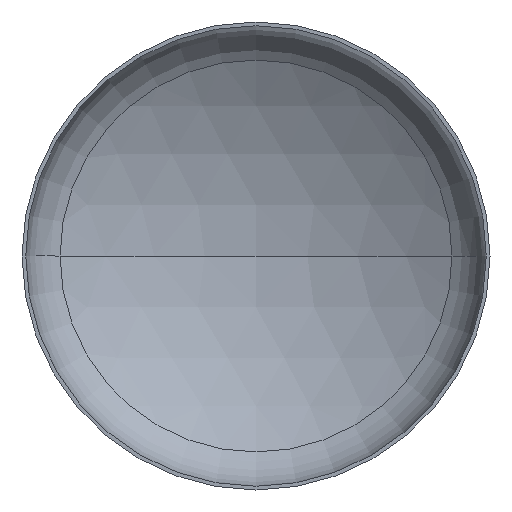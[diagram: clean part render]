
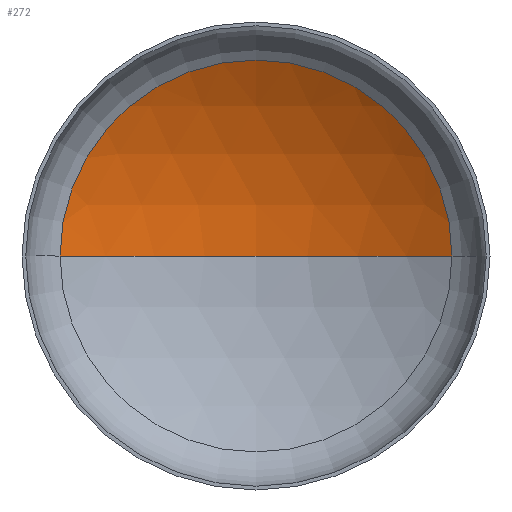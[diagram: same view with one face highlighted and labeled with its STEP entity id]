
A CAD part, front view. The second image highlights one B-rep face of the part: STEP entity #272.
In plain terms, the highlighted spherical face has radius 5200 mm.
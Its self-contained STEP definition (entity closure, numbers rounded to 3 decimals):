
#11 = EDGE_LOOP ( 'NONE', ( #196, #71, #152 ) ) ;
#20 = VERTEX_POINT ( 'NONE', #270 ) ;
#24 = FACE_OUTER_BOUND ( 'NONE', #11, .T. ) ;
#37 = CARTESIAN_POINT ( 'NONE',  ( 0., -3458.938, 0. ) ) ;
#38 = AXIS2_PLACEMENT_3D ( 'NONE', #37, #396, #90 ) ;
#67 = VERTEX_POINT ( 'NONE', #307 ) ;
#71 = ORIENTED_EDGE ( 'NONE', *, *, #162, .T. ) ;
#78 = AXIS2_PLACEMENT_3D ( 'NONE', #258, #182, #199 ) ;
#88 = AXIS2_PLACEMENT_3D ( 'NONE', #134, #273, #336 ) ;
#90 = DIRECTION ( 'NONE',  ( -1., 0., 0. ) ) ;
#91 = VERTEX_POINT ( 'NONE', #248 ) ;
#96 = AXIS2_PLACEMENT_3D ( 'NONE', #204, #183, #341 ) ;
#134 = CARTESIAN_POINT ( 'NONE',  ( 0., -3458.938, 0. ) ) ;
#152 = ORIENTED_EDGE ( 'NONE', *, *, #157, .T. ) ;
#157 = EDGE_CURVE ( 'NONE', #67, #91, #326, .T. ) ;
#162 = EDGE_CURVE ( 'NONE', #20, #67, #382, .T. ) ;
#165 = EDGE_CURVE ( 'NONE', #20, #91, #376, .T. ) ;
#182 = DIRECTION ( 'NONE',  ( 0., 0., 1. ) ) ;
#183 = DIRECTION ( 'NONE',  ( 0., -1., 0. ) ) ;
#196 = ORIENTED_EDGE ( 'NONE', *, *, #165, .F. ) ;
#199 = DIRECTION ( 'NONE',  ( 1., 0., 0. ) ) ;
#204 = CARTESIAN_POINT ( 'NONE',  ( 0., 972.128, 0. ) ) ;
#248 = CARTESIAN_POINT ( 'NONE',  ( -2721.333, 972.128, 0. ) ) ;
#258 = CARTESIAN_POINT ( 'NONE',  ( 0., -3458.938, 0. ) ) ;
#270 = CARTESIAN_POINT ( 'NONE',  ( 0., 1741.062, 0. ) ) ;
#272 = ADVANCED_FACE ( 'NONE', ( #24 ), #369, .F. ) ;
#273 = DIRECTION ( 'NONE',  ( 0., 0., -1. ) ) ;
#307 = CARTESIAN_POINT ( 'NONE',  ( 2721.333, 972.128, 0. ) ) ;
#326 = CIRCLE ( 'NONE', #96, 2721.333 ) ;
#336 = DIRECTION ( 'NONE',  ( -1., 0., 0. ) ) ;
#341 = DIRECTION ( 'NONE',  ( 1., 0., 0. ) ) ;
#369 = SPHERICAL_SURFACE ( 'NONE', #38, 5200. ) ;
#376 = CIRCLE ( 'NONE', #78, 5200. ) ;
#382 = CIRCLE ( 'NONE', #88, 5200. ) ;
#396 = DIRECTION ( 'NONE',  ( 0., 0., -1. ) ) ;
